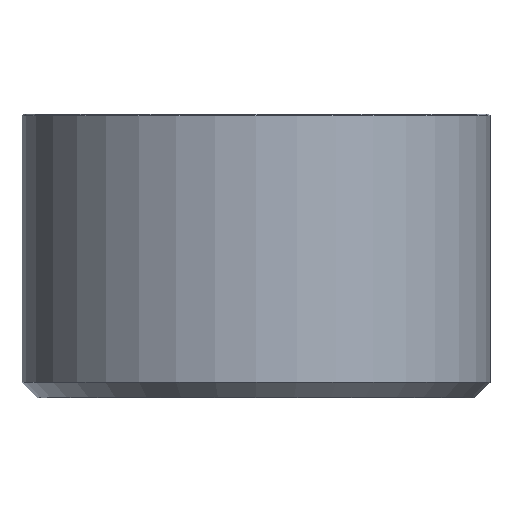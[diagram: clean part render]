
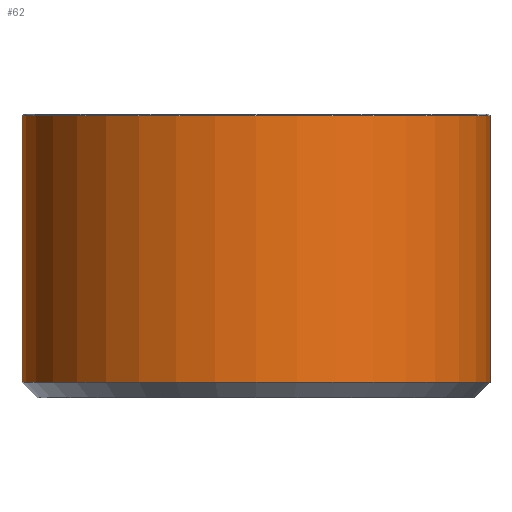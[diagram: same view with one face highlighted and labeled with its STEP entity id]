
A CAD part, front view. The second image highlights one B-rep face of the part: STEP entity #62.
In plain terms, the highlighted cylindrical face has radius 15 mm (diameter 30 mm), a full revolution.
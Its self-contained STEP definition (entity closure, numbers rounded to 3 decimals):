
#44=CYLINDRICAL_SURFACE('',#559,15.);
#62=ADVANCED_FACE('',(#121,#122),#44,.T.);
#121=FACE_BOUND('',#199,.T.);
#122=FACE_BOUND('',#200,.T.);
#199=EDGE_LOOP('',(#277));
#200=EDGE_LOOP('',(#278));
#277=ORIENTED_EDGE('',*,*,#394,.T.);
#278=ORIENTED_EDGE('',*,*,#395,.T.);
#355=VERTEX_POINT('',#826);
#356=VERTEX_POINT('',#828);
#394=EDGE_CURVE('',#355,#355,#437,.T.);
#395=EDGE_CURVE('',#356,#356,#438,.T.);
#437=CIRCLE('',#557,15.);
#438=CIRCLE('',#558,15.);
#557=AXIS2_PLACEMENT_3D('',#825,#670,#671);
#558=AXIS2_PLACEMENT_3D('',#827,#672,#673);
#559=AXIS2_PLACEMENT_3D('',#829,#674,#675);
#670=DIRECTION('',(0.,0.,-1.));
#671=DIRECTION('',(1.,0.,0.));
#672=DIRECTION('',(0.,0.,1.));
#673=DIRECTION('',(-1.,0.,0.));
#674=DIRECTION('',(0.,0.,1.));
#675=DIRECTION('',(1.,0.,0.));
#825=CARTESIAN_POINT('',(0.,0.,18.1));
#826=CARTESIAN_POINT('',(15.,0.,18.1));
#827=CARTESIAN_POINT('',(0.,0.,1.));
#828=CARTESIAN_POINT('',(-15.,0.,1.));
#829=CARTESIAN_POINT('',(0.,0.,0.));
